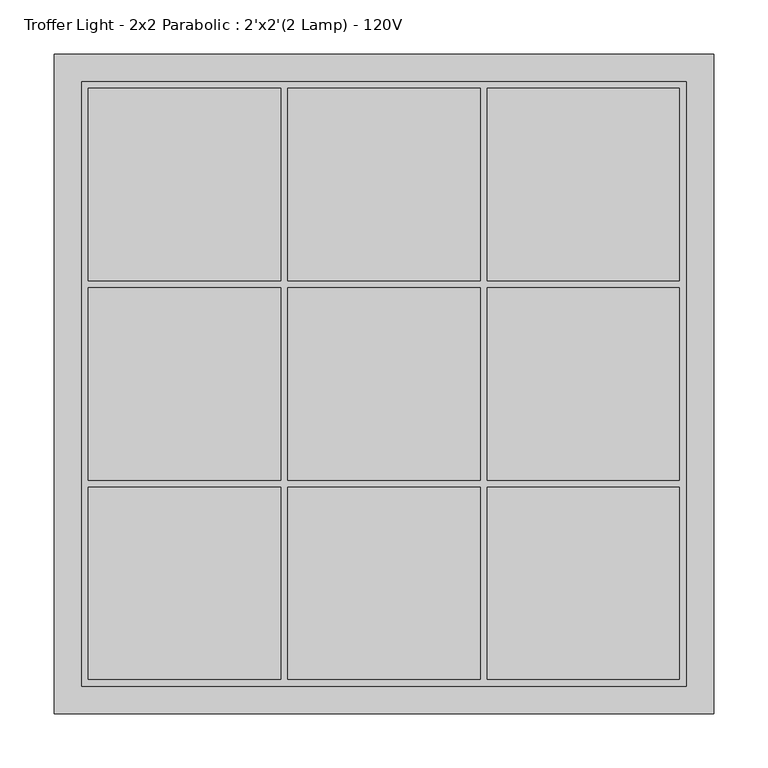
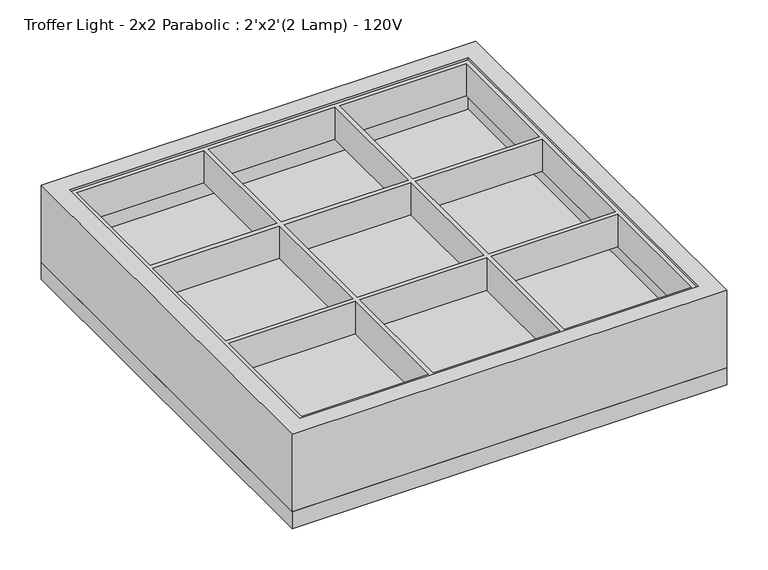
"""IFC4 building model written with IfcOpenShell, lengths in millimetres: light fixture geometry, Troffer Light - 2x2 Parabolic : 2'x2'(2 Lamp) - 120V."""

from ifc_helpers import new_model, si_unit, frame, origin, place, context, project, spatial, polyline, outline, extrude, source, transform, mapped, element, save


def troffer_light_2x2_parabolic_2_x2_2_lamp_120v_6a063ff3(model_context):
    return source(origin(), model_context, "Body", "SweptSolid", [
        extrude(outline(polyline([(-304.8, -609.6), (-304.8, 0.0), (304.8, 0.0), (304.8, -609.6), (-304.8, -609.6)]), holes=[polyline([(279.4, -25.4), (-279.4, -25.4), (-279.4, -584.2), (279.4, -584.2), (279.4, -25.4)])]), frame((0.0, 0.0, -114.3), z_axis=(0.0, 0.0, 1.0), x_axis=(1.0, 0.0, 0.0)), (0.0, 0.0, 1.0), 114.3),
        extrude(outline(polyline([(279.4, -25.4), (279.4, -584.2), (-279.4, -584.2), (-279.4, -25.4), (279.4, -25.4)])), frame((0.0, 0.0, -82.55), z_axis=(0.0, 0.0, 1.0), x_axis=(1.0, 0.0, 0.0)), (0.0, 0.0, 1.0), 6.35),
        extrude(outline(polyline([(279.4, -25.4), (279.4, -584.2), (-279.4, -584.2), (-279.4, -25.4), (279.4, -25.4)]), holes=[polyline([(95.25, -400.05), (95.25, -577.85), (273.05, -577.85), (273.05, -400.05), (95.25, -400.05)]), polyline([(-273.05, -400.05), (-273.05, -577.85), (-95.25, -577.85), (-95.25, -400.05), (-273.05, -400.05)]), polyline([(88.9, -577.85), (88.9, -400.05), (-88.9, -400.05), (-88.9, -577.85), (88.9, -577.85)]), polyline([(-273.05, -31.75), (-273.05, -209.55), (-95.25, -209.55), (-95.25, -31.75), (-273.05, -31.75)]), polyline([(-88.9, -31.75), (-88.9, -209.55), (88.9, -209.55), (88.9, -31.75), (-88.9, -31.75)]), polyline([(95.25, -31.75), (95.25, -209.55), (273.05, -209.55), (273.05, -31.75), (95.25, -31.75)]), polyline([(95.25, -215.9), (95.25, -393.7), (273.05, -393.7), (273.05, -215.9), (95.25, -215.9)]), polyline([(-88.9, -215.9), (-88.9, -393.7), (88.9, -393.7), (88.9, -215.9), (-88.9, -215.9)]), polyline([(-273.05, -215.9), (-273.05, -393.7), (-95.25, -393.7), (-95.25, -215.9), (-273.05, -215.9)])]), frame((0.0, 0.0, -50.8), z_axis=(0.0, 0.0, 1.0), x_axis=(1.0, 0.0, 0.0)), (0.0, 0.0, 1.0), 47.625),
        extrude(outline(polyline([(304.8, 0.0), (304.8, -609.6), (-304.8, -609.6), (-304.8, 0.0), (304.8, 0.0)])), frame((0.0, 0.0, -139.7), z_axis=(0.0, 0.0, 1.0), x_axis=(1.0, 0.0, 0.0)), (0.0, 0.0, 1.0), 25.4),
    ])


if __name__ == "__main__":
    model = new_model("IFC4")
    model_context = context("Model", 3, world=origin())
    ifc_project = project(units=[si_unit("LENGTHUNIT", "METRE", prefix="MILLI")], contexts=[model_context])
    site = spatial("IfcSite", under=ifc_project)
    building = spatial("IfcBuilding", under=site)
    placement = place(None, origin())
    troffer_light_2x2_parabolic_2_x2_2_lamp_120v_shape = troffer_light_2x2_parabolic_2_x2_2_lamp_120v_6a063ff3(model_context)
    element("IfcLightFixture", 1, ObjectType="Troffer Light - 2x2 Parabolic : 2'x2'(2 Lamp) - 120V", at=placement, inside=building, context=model_context, shape_type="MappedRepresentation", body=[
        mapped(troffer_light_2x2_parabolic_2_x2_2_lamp_120v_shape, transform((0.0, 0.0, 0.0), x_axis=(1.0, 0.0, 0.0), y_axis=(0.0, 1.0, 0.0), z_axis=(0.0, 0.0, 1.0))),
    ])
    save(model, "model.ifc")
